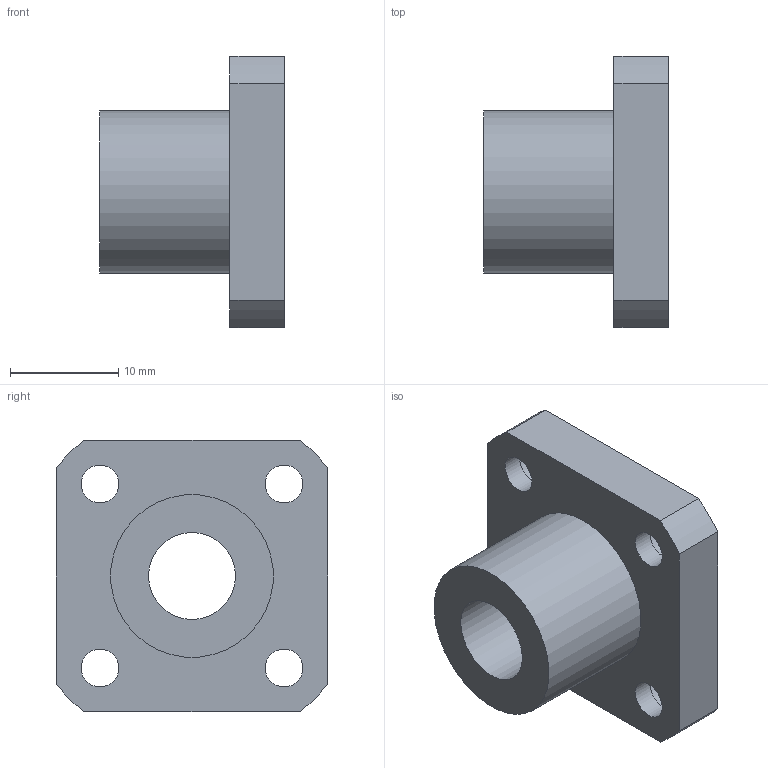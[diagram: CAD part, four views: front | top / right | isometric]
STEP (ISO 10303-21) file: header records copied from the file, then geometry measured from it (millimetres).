
FILE_DESCRIPTION(/* description */ (''),/* implementation_level */ '2;1');
FILE_NAME(/* name */ 'LMK8SUU',/* time_stamp */ '2019-07-09T15:13:52+02:00',/* author */ ('VĂ©gh MĂˇtĂ©'),/* organization */ ('Bearing Kft'),/* preprocessor_version */ 'ST-DEVELOPER v16.7',/* originating_system */ 'DEX',/* authorisation */ $);
FILE_SCHEMA (('AUTOMOTIVE_DESIGN {1 0 10303 214 3 1 1}'));
Length unit declared in the file: millimetre
Products named in the file (1): LMK8SUU
Bounding box: 17 x 25 x 25 mm (x, y, z)
Volume: 3908.2 mm3; surface area: 2840 mm2
Topology: 1 solids, 1 shells, 329 faces, 825 edges, 550 vertices
Faces by surface type: plane 248, bspline 65, cylinder 16
Full cylindrical faces by diameter (mm): 3.5 x4, 6 x4, 8 x1, 15 x1
Entity records: 12390 total; most frequent: CARTESIAN_POINT 4901, ORIENTED_EDGE 1624, DIRECTION 1244, EDGE_CURVE 812, LINE 650, VECTOR 650, VERTEX_POINT 550, EDGE_LOOP 404
